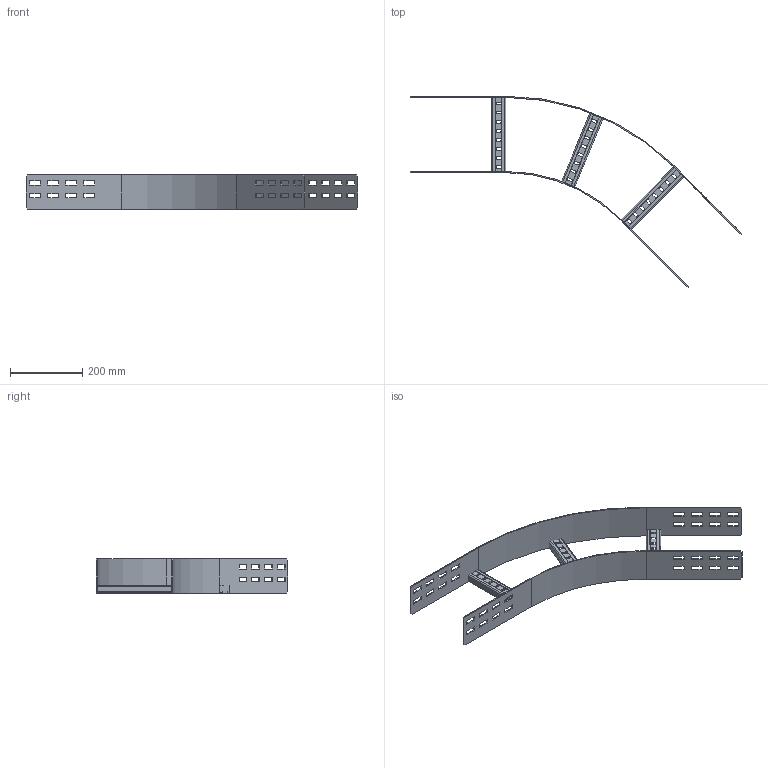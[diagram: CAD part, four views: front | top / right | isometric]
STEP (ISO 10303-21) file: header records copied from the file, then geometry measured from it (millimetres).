
FILE_DESCRIPTION(('Creo Elements/Direct Modeling STEP Export'),'2;1');
FILE_NAME('WPHB10-20-45-45.stp','2016-05-20T 8:27:17',(''),(''),'PTC Creo Elements/Direct Modeling STEP processor for AP214 (Solid Model)','PTC Creo Elements/Direct Modeling 19.0C 15-Aug-2015 (C) Parametric Technology GmbH','');
FILE_SCHEMA(('AUTOMOTIVE_DESIGN { 1 0 10303 214 1 1 1 1 }'));
Length unit declared in the file: millimetre
Products named in the file (4): WPHBS20.003; WPBA_100-20-45; WPBI_100-45; WPHB10-20-45-45
Assembly tree (5 placements, depth 2):
  WPHB10-20-45-45
    WPBI_100-45
    WPHBS20.003  x3
    WPBA_100-20-45
Bounding box: 917.66 x 529.31 x 95 mm (x, y, z)
Volume: 605829.8 mm3; surface area: 488587 mm2
Topology: 5 solids, 5 shells, 372 faces, 1086 edges, 724 vertices
Faces by surface type: plane 266, cylinder 106
Entity records: 7747 total; most frequent: CARTESIAN_POINT 1344, ORIENTED_EDGE 1332, DIRECTION 1210, EDGE_CURVE 666, VECTOR 590, LINE 590, VERTEX_POINT 444, AXIS2_PLACEMENT_3D 310
